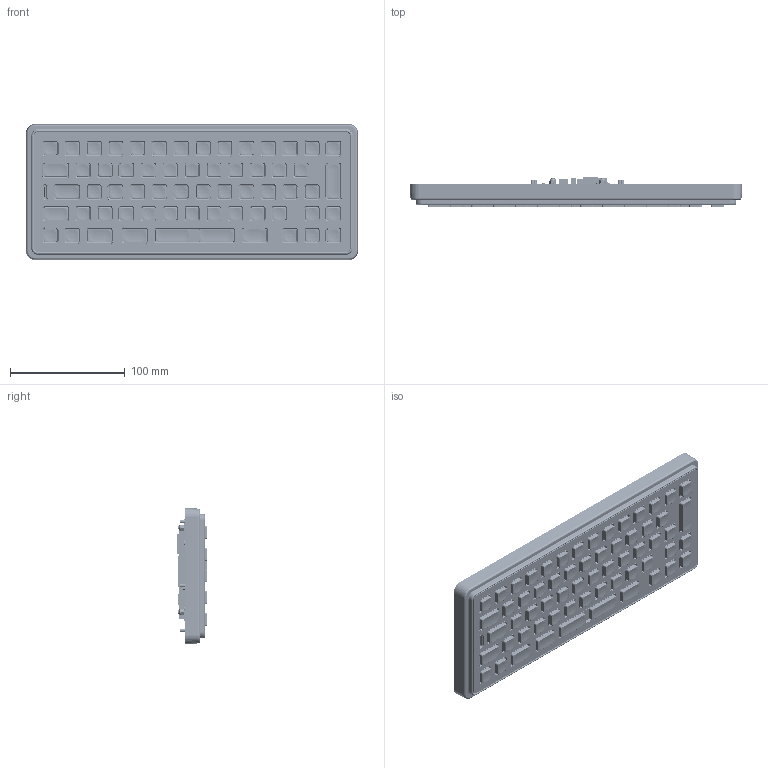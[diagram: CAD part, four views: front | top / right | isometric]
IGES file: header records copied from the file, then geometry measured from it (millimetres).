
Start section: SolidWorks IGES file using analytic representation for surfaces
Global section: file name: C:\Documents and Settings\tracys.STORMINTERFACE\Desktop\website models\EXPLODED_221O-GA~1.IGS; native system: SolidWorks 2006 by SolidWorks Corporation; preprocessor: SolidWorks 2006 by SolidWorks Corporation; author: tracys; date: 051028.170728; units: millimetre
Bounding box: 289.5 x 26.65 x 118.5 mm (x, y, z)
Surface area: 140681.4 mm2 (no closed solid volume)
Topology: 0 solids, 0 shells, 3433 faces, 35214 edges, 35214 vertices
Faces by surface type: revolution 1780, bspline 1653
